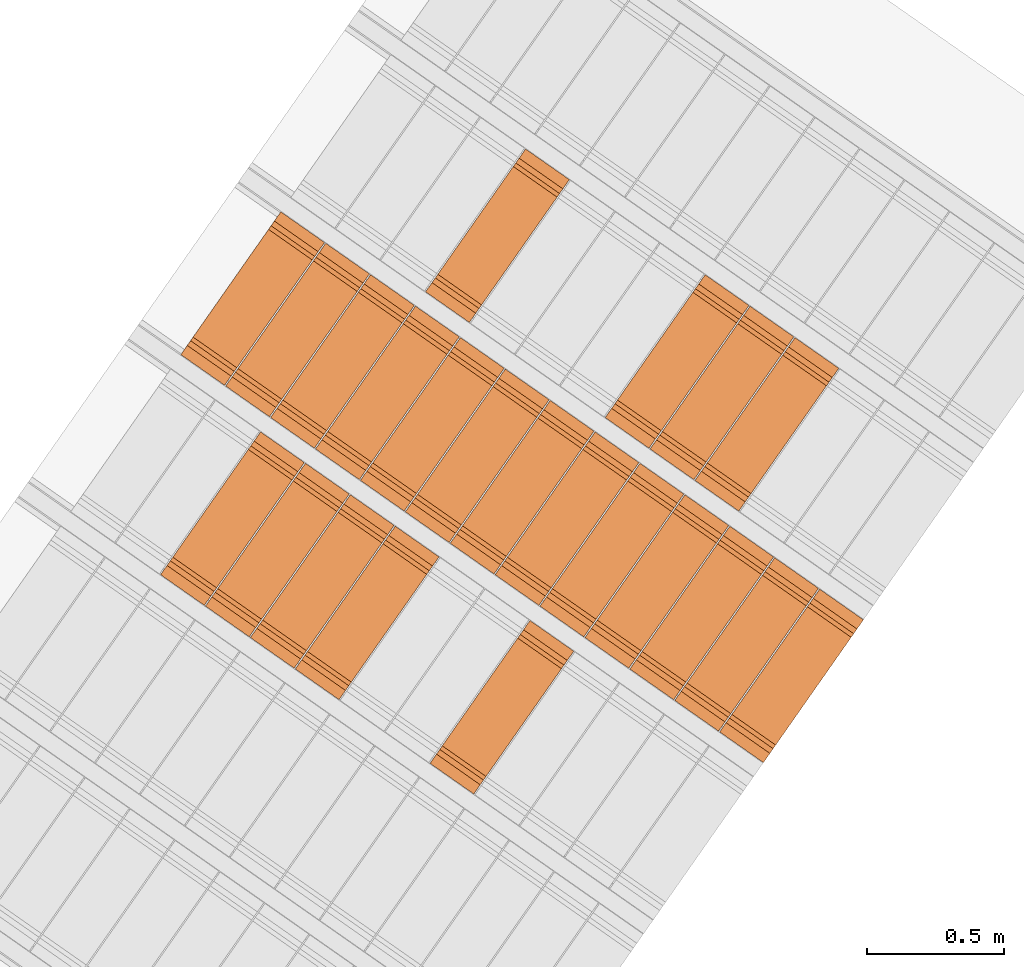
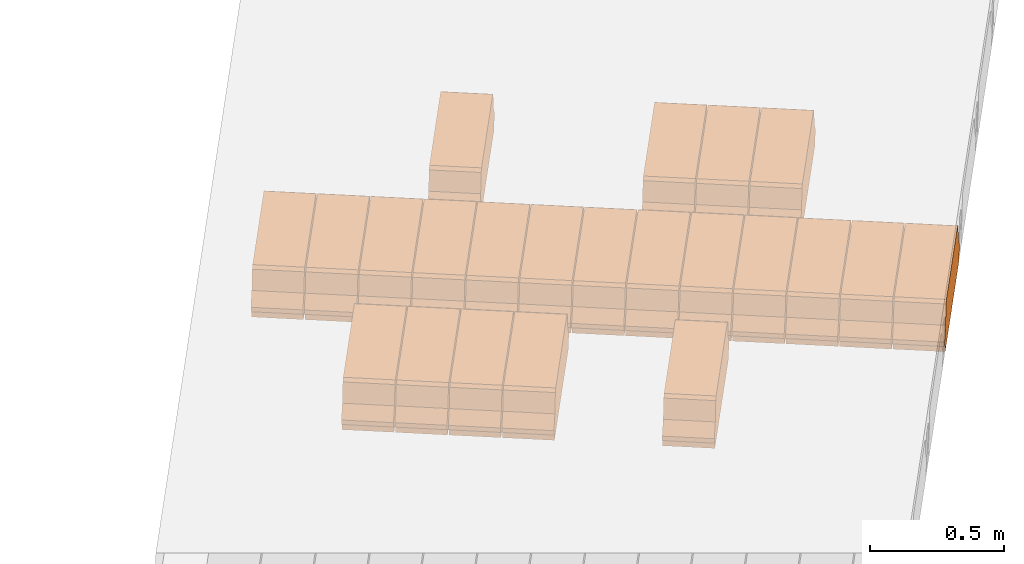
# One storey, part 7 of 8: 22 proxies.
"""IFC2X3 building model written with IfcOpenShell, lengths in metres."""

from ifc_helpers import new_model, entity, si_unit, converted_unit, derived_unit, direction, frame, origin, place, context, subcontext, project, spatial, polyline, outline, extrude, type_object, element, save


model = new_model("IFC2X3")

# Units and contexts
model_context = context("Model", 3, precision=1e-05, world=origin(), true_north=direction((6.123031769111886e-17, 1.0)))
body_context = subcontext(model_context, "Body", "Model", "MODEL_VIEW")
ifc_project = project(units=[si_unit("LENGTHUNIT", "METRE"), si_unit("AREAUNIT", "SQUARE_METRE"), si_unit("VOLUMEUNIT", "CUBIC_METRE"), converted_unit("PLANEANGLEUNIT", "DEGREE", entity("IfcPlaneAngleMeasure", 0.017453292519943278), si_unit("PLANEANGLEUNIT", "RADIAN"), dimensions=[0, 0, 0, 0, 0, 0, 0]), si_unit("MASSUNIT", "GRAM", prefix="KILO"), derived_unit("MASSDENSITYUNIT", [(si_unit("MASSUNIT", "GRAM", prefix="KILO"), 1), (si_unit("LENGTHUNIT", "METRE"), -3)]), derived_unit("IONCONCENTRATIONUNIT", [(si_unit("MASSUNIT", "GRAM", prefix="KILO"), 1), (si_unit("LENGTHUNIT", "METRE"), -3)]), derived_unit("MOMENTOFINERTIAUNIT", [(si_unit("LENGTHUNIT", "METRE"), 4)]), si_unit("TIMEUNIT", "SECOND"), si_unit("FREQUENCYUNIT", "HERTZ"), si_unit("THERMODYNAMICTEMPERATUREUNIT", "DEGREE_CELSIUS"), derived_unit("THERMALTRANSMITTANCEUNIT", [(si_unit("MASSUNIT", "GRAM", prefix="KILO"), 1), (si_unit("THERMODYNAMICTEMPERATUREUNIT", "KELVIN"), -1), (si_unit("TIMEUNIT", "SECOND"), -3)]), derived_unit("THERMALCONDUCTANCEUNIT", [(si_unit("MASSUNIT", "GRAM", prefix="KILO"), 1), (si_unit("THERMODYNAMICTEMPERATUREUNIT", "KELVIN"), -1), (si_unit("TIMEUNIT", "SECOND"), -3), (si_unit("LENGTHUNIT", "METRE"), 1)]), derived_unit("VOLUMETRICFLOWRATEUNIT", [(si_unit("LENGTHUNIT", "METRE", prefix="DECI"), 3), (si_unit("TIMEUNIT", "SECOND"), -1)]), derived_unit("MASSFLOWRATEUNIT", [(si_unit("MASSUNIT", "GRAM", prefix="KILO"), 1), (si_unit("TIMEUNIT", "SECOND"), -1)]), derived_unit("ROTATIONALFREQUENCYUNIT", [(si_unit("TIMEUNIT", "SECOND"), -1)]), si_unit("ELECTRICCURRENTUNIT", "AMPERE"), si_unit("ELECTRICVOLTAGEUNIT", "VOLT"), si_unit("POWERUNIT", "WATT"), si_unit("FORCEUNIT", "NEWTON", prefix="KILO"), si_unit("ILLUMINANCEUNIT", "LUX"), si_unit("LUMINOUSFLUXUNIT", "LUMEN"), si_unit("LUMINOUSINTENSITYUNIT", "CANDELA"), si_unit("ENERGYUNIT", "JOULE"), derived_unit("USERDEFINED", [(si_unit("MASSUNIT", "GRAM", prefix="KILO"), -1), (si_unit("LENGTHUNIT", "METRE"), -2), (si_unit("TIMEUNIT", "SECOND"), 3), (si_unit("LUMINOUSFLUXUNIT", "LUMEN"), 1)]), derived_unit("USERDEFINED", [(si_unit("MASSUNIT", "GRAM", prefix="KILO"), 1), (si_unit("TIMEUNIT", "SECOND"), -3), (si_unit("LENGTHUNIT", "METRE"), 3), (si_unit("ELECTRICCURRENTUNIT", "AMPERE"), -2)]), derived_unit("SOUNDPOWERUNIT", [(si_unit("MASSUNIT", "GRAM", prefix="KILO"), 1), (si_unit("TIMEUNIT", "SECOND"), -3), (si_unit("LENGTHUNIT", "METRE"), 2)]), derived_unit("SOUNDPRESSUREUNIT", [(si_unit("MASSUNIT", "GRAM", prefix="KILO"), 1), (si_unit("LENGTHUNIT", "METRE"), -1), (si_unit("TIMEUNIT", "SECOND"), -2)]), derived_unit("LINEARVELOCITYUNIT", [(si_unit("LENGTHUNIT", "METRE"), 1), (si_unit("TIMEUNIT", "SECOND"), -1)]), si_unit("PRESSUREUNIT", "PASCAL"), derived_unit("USERDEFINED", [(si_unit("MASSUNIT", "GRAM", prefix="KILO"), 1), (si_unit("LENGTHUNIT", "METRE"), -2), (si_unit("TIMEUNIT", "SECOND"), -2)]), derived_unit("LINEARFORCEUNIT", [(si_unit("MASSUNIT", "GRAM", prefix="KILO"), 1), (si_unit("TIMEUNIT", "SECOND"), -2)]), derived_unit("PLANARFORCEUNIT", [(si_unit("MASSUNIT", "GRAM", prefix="KILO"), 1), (si_unit("LENGTHUNIT", "METRE"), -1), (si_unit("TIMEUNIT", "SECOND"), -2)]), derived_unit("SPECIFICHEATCAPACITYUNIT", [(si_unit("THERMODYNAMICTEMPERATUREUNIT", "KELVIN"), -1), (si_unit("LENGTHUNIT", "METRE"), 2), (si_unit("TIMEUNIT", "SECOND"), -2)]), derived_unit("HEATFLUXDENSITYUNIT", [(si_unit("MASSUNIT", "GRAM", prefix="KILO"), 1), (si_unit("TIMEUNIT", "SECOND"), -3)]), derived_unit("HEATINGVALUEUNIT", [(si_unit("LENGTHUNIT", "METRE"), 2), (si_unit("TIMEUNIT", "SECOND"), -2)]), derived_unit("VAPORPERMEABILITYUNIT", [(si_unit("LENGTHUNIT", "METRE"), -1), (si_unit("TIMEUNIT", "SECOND"), 1)]), derived_unit("DYNAMICVISCOSITYUNIT", [(si_unit("MASSUNIT", "GRAM", prefix="KILO"), 1), (si_unit("TIMEUNIT", "SECOND"), -1), (si_unit("LENGTHUNIT", "METRE"), -1)]), derived_unit("THERMALEXPANSIONCOEFFICIENTUNIT", [(si_unit("THERMODYNAMICTEMPERATUREUNIT", "KELVIN"), -1)]), derived_unit("MODULUSOFELASTICITYUNIT", [(si_unit("MASSUNIT", "GRAM", prefix="KILO"), 1), (si_unit("LENGTHUNIT", "METRE"), -1), (si_unit("TIMEUNIT", "SECOND"), -2)]), derived_unit("ISOTHERMALMOISTURECAPACITYUNIT", [(si_unit("MASSUNIT", "GRAM", prefix="KILO"), -1), (si_unit("LENGTHUNIT", "METRE"), 3)]), derived_unit("MOISTUREDIFFUSIVITYUNIT", [(si_unit("TIMEUNIT", "SECOND"), -1), (si_unit("LENGTHUNIT", "METRE"), 2)]), derived_unit("MASSPERLENGTHUNIT", [(si_unit("MASSUNIT", "GRAM", prefix="KILO"), 1), (si_unit("LENGTHUNIT", "METRE"), -1)]), derived_unit("THERMALRESISTANCEUNIT", [(si_unit("MASSUNIT", "GRAM", prefix="KILO"), -1), (si_unit("TIMEUNIT", "SECOND"), 3), (si_unit("THERMODYNAMICTEMPERATUREUNIT", "KELVIN"), 1)]), derived_unit("ACCELERATIONUNIT", [(si_unit("LENGTHUNIT", "METRE"), 1), (si_unit("TIMEUNIT", "SECOND"), -2)]), derived_unit("ANGULARVELOCITYUNIT", [(si_unit("TIMEUNIT", "SECOND"), -1), (si_unit("PLANEANGLEUNIT", "RADIAN"), 1)]), derived_unit("LINEARSTIFFNESSUNIT", [(si_unit("MASSUNIT", "GRAM", prefix="KILO"), 1), (si_unit("TIMEUNIT", "SECOND"), -2)]), derived_unit("WARPINGCONSTANTUNIT", [(si_unit("LENGTHUNIT", "METRE"), 6)]), derived_unit("LINEARMOMENTUNIT", [(si_unit("MASSUNIT", "GRAM", prefix="KILO"), 1), (si_unit("LENGTHUNIT", "METRE"), 1), (si_unit("TIMEUNIT", "SECOND"), -2)]), derived_unit("TORQUEUNIT", [(si_unit("MASSUNIT", "GRAM", prefix="KILO"), 1), (si_unit("LENGTHUNIT", "METRE"), 2), (si_unit("TIMEUNIT", "SECOND"), -2)])], contexts=[model_context])

# Site, building, storey
site_placement = place(None, origin())
site = spatial("IfcSite", under=ifc_project, at=site_placement, Name="Default", CompositionType="ELEMENT")
building_placement = place(site_placement, origin())
building = spatial("IfcBuilding", under=site, at=building_placement, CompositionType="ELEMENT")
storey_placement = place(building_placement, frame((0.0, 0.0, 93.64)))
storey = spatial("IfcBuildingStorey", under=building, at=storey_placement, Name="Depósito_", CompositionType="ELEMENT", Elevation=93.64)

# Proxies
building_element_proxy_type_1 = type_object("IfcBuildingElementProxyType", Name="Bovedilla 3-5 (Paño 2)", PredefinedType="USERDEFINED")
proxy_1_placement = place(storey_placement, origin())
element("IfcBuildingElementProxy", 1, at=proxy_1_placement, inside=storey, type_object=building_element_proxy_type_1, Name="Bovedilla 3-5 (Paño 2)", ObjectType="FORM", context=body_context, shape_type="SweptSolid", body=[
    extrude(outline(polyline([(0.05816607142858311, -0.2950000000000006), (0.08997232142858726, -0.2950000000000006), (0.08997232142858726, 0.2949999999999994), (0.05816607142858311, 0.2949999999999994), (0.049972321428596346, 0.3180000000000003), (0.029972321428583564, 0.3180000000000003), (-0.018027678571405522, 0.27699999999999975), (-0.10002767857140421, 0.2560000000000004), (-0.11002767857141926, 0.2399999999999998), (-0.11002767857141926, -0.2399999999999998), (-0.10002767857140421, -0.2560000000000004), (-0.018027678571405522, -0.27699999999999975), (0.029972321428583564, -0.3180000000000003), (0.049972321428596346, -0.3180000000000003), (0.05816607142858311, -0.2950000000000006)])), frame((4.300533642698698, 7.338805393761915, 2.1381660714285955), z_axis=(0.8191520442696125, -0.5735764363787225, 0.0), x_axis=(0.0, 0.0, -1.0)), (0.0, 0.0, 1.0), 0.19500000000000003),
])
building_element_proxy_type_2 = type_object("IfcBuildingElementProxyType", Name="Bovedilla 3-8 (Paño 2)", PredefinedType="USERDEFINED")
proxy_2_placement = place(storey_placement, origin())
element("IfcBuildingElementProxy", 2, at=proxy_2_placement, inside=storey, type_object=building_element_proxy_type_2, Name="Bovedilla 3-8 (Paño 2)", ObjectType="FORM", context=body_context, shape_type="SweptSolid", body=[
    extrude(outline(polyline([(0.05816607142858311, -0.2949999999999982), (0.08997232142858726, -0.2949999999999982), (0.08997232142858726, 0.2950000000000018), (0.05816607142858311, 0.2950000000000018), (0.049972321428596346, 0.3180000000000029), (0.029972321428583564, 0.3180000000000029), (-0.018027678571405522, 0.2770000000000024), (-0.10002767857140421, 0.2560000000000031), (-0.11002767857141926, 0.24000000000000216), (-0.11002767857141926, -0.23999999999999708), (-0.10002767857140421, -0.255999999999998), (-0.018027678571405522, -0.27699999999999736), (0.029972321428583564, -0.31799999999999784), (0.049972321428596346, -0.31799999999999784), (0.05816607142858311, -0.2949999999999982)])), frame((3.809042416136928, 7.682951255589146, 2.1381660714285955), z_axis=(0.8191520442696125, -0.5735764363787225, 0.0), x_axis=(0.0, 0.0, -1.0)), (0.0, 0.0, 1.0), 0.19500000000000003),
])
building_element_proxy_type_3 = type_object("IfcBuildingElementProxyType", Name="Bovedilla 3-9 (Paño 2)", PredefinedType="USERDEFINED")
proxy_3_placement = place(storey_placement, origin())
element("IfcBuildingElementProxy", 3, at=proxy_3_placement, inside=storey, type_object=building_element_proxy_type_3, Name="Bovedilla 3-9 (Paño 2)", ObjectType="FORM", context=body_context, shape_type="SweptSolid", body=[
    extrude(outline(polyline([(0.05816607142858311, -0.2950000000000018), (0.08997232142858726, -0.2950000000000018), (0.08997232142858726, 0.2949999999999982), (0.05816607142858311, 0.2949999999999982), (0.049972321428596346, 0.31799999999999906), (0.029972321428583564, 0.31799999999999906), (-0.018027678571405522, 0.2769999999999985), (-0.10002767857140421, 0.2559999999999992), (-0.11002767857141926, 0.23999999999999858), (-0.11002767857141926, -0.24000000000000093), (-0.10002767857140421, -0.25600000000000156), (-0.018027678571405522, -0.2770000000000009), (0.029972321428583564, -0.3180000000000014), (0.049972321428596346, -0.3180000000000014), (0.05816607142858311, -0.2950000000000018)])), frame((3.645212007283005, 7.797666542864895, 2.1381660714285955), z_axis=(0.8191520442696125, -0.5735764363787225, 0.0), x_axis=(0.0, 0.0, -1.0)), (0.0, 0.0, 1.0), 0.19500000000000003),
])
building_element_proxy_type_4 = type_object("IfcBuildingElementProxyType", Name="Bovedilla 3-10 (Paño 2)", PredefinedType="USERDEFINED")
proxy_4_placement = place(storey_placement, origin())
element("IfcBuildingElementProxy", 4, at=proxy_4_placement, inside=storey, type_object=building_element_proxy_type_4, Name="Bovedilla 3-10 (Paño 2)", ObjectType="FORM", context=body_context, shape_type="SweptSolid", body=[
    extrude(outline(polyline([(0.05816607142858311, -0.2950000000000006), (0.08997232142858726, -0.2950000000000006), (0.08997232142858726, 0.2949999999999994), (0.05816607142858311, 0.2949999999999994), (0.049972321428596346, 0.3180000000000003), (0.029972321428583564, 0.3180000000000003), (-0.018027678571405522, 0.27699999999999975), (-0.10002767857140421, 0.2560000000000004), (-0.11002767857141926, 0.2399999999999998), (-0.11002767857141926, -0.2399999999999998), (-0.10002767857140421, -0.2560000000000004), (-0.018027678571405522, -0.27699999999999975), (0.029972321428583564, -0.3180000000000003), (0.049972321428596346, -0.3180000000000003), (0.05816607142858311, -0.2950000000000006)])), frame((3.4813815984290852, 7.912381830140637, 2.1381660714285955), z_axis=(0.8191520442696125, -0.5735764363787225, 0.0), x_axis=(0.0, 0.0, -1.0)), (0.0, 0.0, 1.0), 0.19500000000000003),
])
building_element_proxy_type_5 = type_object("IfcBuildingElementProxyType", Name="Bovedilla 3-11 (Paño 2)", PredefinedType="USERDEFINED")
proxy_5_placement = place(storey_placement, origin())
element("IfcBuildingElementProxy", 5, at=proxy_5_placement, inside=storey, type_object=building_element_proxy_type_5, Name="Bovedilla 3-11 (Paño 2)", ObjectType="FORM", context=body_context, shape_type="SweptSolid", body=[
    extrude(outline(polyline([(0.05816607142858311, -0.2950000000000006), (0.08997232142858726, -0.2950000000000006), (0.08997232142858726, 0.2949999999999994), (0.05816607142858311, 0.2949999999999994), (0.049972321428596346, 0.3180000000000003), (0.029972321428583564, 0.3180000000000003), (-0.018027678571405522, 0.27699999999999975), (-0.10002767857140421, 0.2560000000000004), (-0.11002767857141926, 0.2399999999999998), (-0.11002767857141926, -0.2399999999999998), (-0.10002767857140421, -0.2560000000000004), (-0.018027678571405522, -0.27699999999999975), (0.029972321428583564, -0.3180000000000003), (0.049972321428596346, -0.3180000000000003), (0.05816607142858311, -0.2950000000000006)])), frame((3.3175511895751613, 8.02709711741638, 2.1381660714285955), z_axis=(0.8191520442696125, -0.5735764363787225, 0.0), x_axis=(0.0, 0.0, -1.0)), (0.0, 0.0, 1.0), 0.19500000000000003),
])
building_element_proxy_type_6 = type_object("IfcBuildingElementProxyType", Name="Bovedilla 4-1 (Paño 2)", PredefinedType="USERDEFINED")
proxy_6_placement = place(storey_placement, origin())
element("IfcBuildingElementProxy", 6, at=proxy_6_placement, inside=storey, type_object=building_element_proxy_type_6, Name="Bovedilla 4-1 (Paño 2)", ObjectType="FORM", context=body_context, shape_type="SweptSolid", body=[
    extrude(outline(polyline([(0.05816607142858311, -0.29499999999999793), (0.08997232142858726, -0.29499999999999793), (0.08997232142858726, 0.2950000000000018), (0.05816607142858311, 0.2950000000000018), (0.049972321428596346, 0.3180000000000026), (0.029972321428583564, 0.3180000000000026), (-0.018027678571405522, 0.27700000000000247), (-0.10002767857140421, 0.2560000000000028), (-0.11002767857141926, 0.24000000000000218), (-0.11002767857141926, -0.2399999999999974), (-0.10002767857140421, -0.255999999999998), (-0.018027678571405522, -0.2769999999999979), (0.029972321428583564, -0.31799999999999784), (0.049972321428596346, -0.31799999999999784), (0.05816607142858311, -0.29499999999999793)])), frame((5.357358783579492, 7.4533506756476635, 2.1381660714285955), z_axis=(0.8191520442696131, -0.5735764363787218, 0.0), x_axis=(0.0, 0.0, -1.0)), (0.0, 0.0, 1.0), 0.19500000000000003),
])
building_element_proxy_type_7 = type_object("IfcBuildingElementProxyType", Name="Bovedilla 4-2 (Paño 2)", PredefinedType="USERDEFINED")
proxy_7_placement = place(storey_placement, origin())
element("IfcBuildingElementProxy", 7, at=proxy_7_placement, inside=storey, type_object=building_element_proxy_type_7, Name="Bovedilla 4-2 (Paño 2)", ObjectType="FORM", context=body_context, shape_type="SweptSolid", body=[
    extrude(outline(polyline([(0.05816607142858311, -0.2949999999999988), (0.08997232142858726, -0.2949999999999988), (0.08997232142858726, 0.2950000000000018), (0.05816607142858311, 0.2950000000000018), (0.049972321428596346, 0.3180000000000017), (0.029972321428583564, 0.3180000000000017), (-0.018027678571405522, 0.27700000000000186), (-0.10002767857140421, 0.2560000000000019), (-0.11002767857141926, 0.24000000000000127), (-0.11002767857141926, -0.2399999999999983), (-0.10002767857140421, -0.2559999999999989), (-0.018027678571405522, -0.2769999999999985), (0.029972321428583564, -0.3179999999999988), (0.049972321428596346, -0.3179999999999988), (0.05816607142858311, -0.2949999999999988)])), frame((5.193528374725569, 7.568065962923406, 2.1381660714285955), z_axis=(0.8191520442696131, -0.5735764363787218, 0.0), x_axis=(0.0, 0.0, -1.0)), (0.0, 0.0, 1.0), 0.19500000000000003),
])
building_element_proxy_type_8 = type_object("IfcBuildingElementProxyType", Name="Bovedilla 4-3 (Paño 2)", PredefinedType="USERDEFINED")
proxy_8_placement = place(storey_placement, origin())
element("IfcBuildingElementProxy", 8, at=proxy_8_placement, inside=storey, type_object=building_element_proxy_type_8, Name="Bovedilla 4-3 (Paño 2)", ObjectType="FORM", context=body_context, shape_type="SweptSolid", body=[
    extrude(outline(polyline([(0.05816607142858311, -0.2950000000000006), (0.08997232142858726, -0.2950000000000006), (0.08997232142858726, 0.2949999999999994), (0.05816607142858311, 0.2949999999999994), (0.049972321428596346, 0.3180000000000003), (0.029972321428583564, 0.3180000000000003), (-0.018027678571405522, 0.277), (-0.10002767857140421, 0.2560000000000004), (-0.11002767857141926, 0.2399999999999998), (-0.11002767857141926, -0.2399999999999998), (-0.10002767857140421, -0.2560000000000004), (-0.018027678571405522, -0.27699999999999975), (0.029972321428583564, -0.3180000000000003), (0.049972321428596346, -0.3180000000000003), (0.05816607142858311, -0.2950000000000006)])), frame((5.029697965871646, 7.682781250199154, 2.1381660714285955), z_axis=(0.8191520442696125, -0.5735764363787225, 0.0), x_axis=(0.0, 0.0, -1.0)), (0.0, 0.0, 1.0), 0.19500000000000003),
])
building_element_proxy_type_9 = type_object("IfcBuildingElementProxyType", Name="Bovedilla 4-4 (Paño 2)", PredefinedType="USERDEFINED")
proxy_9_placement = place(storey_placement, origin())
element("IfcBuildingElementProxy", 9, at=proxy_9_placement, inside=storey, type_object=building_element_proxy_type_9, Name="Bovedilla 4-4 (Paño 2)", ObjectType="FORM", context=body_context, shape_type="SweptSolid", body=[
    extrude(outline(polyline([(0.05816607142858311, -0.2949999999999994), (0.08997232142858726, -0.2949999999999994), (0.08997232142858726, 0.2950000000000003), (0.05816607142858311, 0.2950000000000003), (0.049972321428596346, 0.3180000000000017), (0.029972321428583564, 0.3180000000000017), (-0.018027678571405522, 0.2770000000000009), (-0.10002767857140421, 0.2560000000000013), (-0.11002767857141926, 0.24000000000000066), (-0.11002767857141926, -0.23999999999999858), (-0.10002767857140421, -0.2559999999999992), (-0.018027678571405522, -0.2769999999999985), (0.029972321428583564, -0.31799999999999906), (0.049972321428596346, -0.31799999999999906), (0.05816607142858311, -0.2949999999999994)])), frame((4.865867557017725, 7.797496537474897, 2.1381660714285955), z_axis=(0.8191520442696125, -0.5735764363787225, 0.0), x_axis=(0.0, 0.0, -1.0)), (0.0, 0.0, 1.0), 0.19500000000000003),
])
building_element_proxy_type_10 = type_object("IfcBuildingElementProxyType", Name="Bovedilla 4-5 (Paño 2)", PredefinedType="USERDEFINED")
proxy_10_placement = place(storey_placement, origin())
element("IfcBuildingElementProxy", 10, at=proxy_10_placement, inside=storey, type_object=building_element_proxy_type_10, Name="Bovedilla 4-5 (Paño 2)", ObjectType="FORM", context=body_context, shape_type="SweptSolid", body=[
    extrude(outline(polyline([(0.05816607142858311, -0.2949999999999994), (0.08997232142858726, -0.2949999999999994), (0.08997232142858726, 0.2950000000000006), (0.05816607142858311, 0.2950000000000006), (0.049972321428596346, 0.3180000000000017), (0.029972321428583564, 0.3180000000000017), (-0.018027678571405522, 0.2770000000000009), (-0.10002767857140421, 0.25600000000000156), (-0.11002767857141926, 0.24000000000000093), (-0.11002767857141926, -0.23999999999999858), (-0.10002767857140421, -0.2559999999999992), (-0.018027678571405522, -0.2769999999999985), (0.029972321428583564, -0.31799999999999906), (0.049972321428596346, -0.31799999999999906), (0.05816607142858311, -0.2949999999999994)])), frame((4.702037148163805, 7.91221182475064, 2.1381660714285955), z_axis=(0.8191520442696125, -0.5735764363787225, 0.0), x_axis=(0.0, 0.0, -1.0)), (0.0, 0.0, 1.0), 0.19500000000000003),
])
building_element_proxy_type_11 = type_object("IfcBuildingElementProxyType", Name="Bovedilla 4-6 (Paño 2)", PredefinedType="USERDEFINED")
proxy_11_placement = place(storey_placement, origin())
element("IfcBuildingElementProxy", 11, at=proxy_11_placement, inside=storey, type_object=building_element_proxy_type_11, Name="Bovedilla 4-6 (Paño 2)", ObjectType="FORM", context=body_context, shape_type="SweptSolid", body=[
    extrude(outline(polyline([(0.05816607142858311, -0.2949999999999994), (0.08997232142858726, -0.2949999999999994), (0.08997232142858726, 0.2950000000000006), (0.05816607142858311, 0.2950000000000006), (0.049972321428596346, 0.31800000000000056), (0.029972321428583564, 0.31800000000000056), (-0.018027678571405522, 0.277), (-0.10002767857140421, 0.25600000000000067), (-0.11002767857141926, 0.24000000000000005), (-0.11002767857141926, -0.23999999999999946), (-0.10002767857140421, -0.25600000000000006), (-0.018027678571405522, -0.2769999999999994), (0.029972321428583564, -0.31799999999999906), (0.049972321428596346, -0.31799999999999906), (0.05816607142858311, -0.2949999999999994)])), frame((4.538206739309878, 8.026927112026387, 2.1381660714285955), z_axis=(0.8191520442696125, -0.5735764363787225, 0.0), x_axis=(0.0, 0.0, -1.0)), (0.0, 0.0, 1.0), 0.19500000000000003),
])
building_element_proxy_type_12 = type_object("IfcBuildingElementProxyType", Name="Bovedilla 4-7 (Paño 2)", PredefinedType="USERDEFINED")
proxy_12_placement = place(storey_placement, origin())
element("IfcBuildingElementProxy", 12, at=proxy_12_placement, inside=storey, type_object=building_element_proxy_type_12, Name="Bovedilla 4-7 (Paño 2)", ObjectType="FORM", context=body_context, shape_type="SweptSolid", body=[
    extrude(outline(polyline([(0.05816607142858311, -0.2950000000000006), (0.08997232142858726, -0.2950000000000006), (0.08997232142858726, 0.2949999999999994), (0.05816607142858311, 0.2949999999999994), (0.049972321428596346, 0.3180000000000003), (0.029972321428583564, 0.3180000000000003), (-0.018027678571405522, 0.27699999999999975), (-0.10002767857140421, 0.2560000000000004), (-0.11002767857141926, 0.2399999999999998), (-0.11002767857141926, -0.2399999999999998), (-0.10002767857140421, -0.2560000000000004), (-0.018027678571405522, -0.27699999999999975), (0.029972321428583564, -0.3180000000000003), (0.049972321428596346, -0.3180000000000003), (0.05816607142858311, -0.2950000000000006)])), frame((4.374376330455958, 8.141642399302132, 2.1381660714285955), z_axis=(0.8191520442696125, -0.5735764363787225, 0.0), x_axis=(0.0, 0.0, -1.0)), (0.0, 0.0, 1.0), 0.19500000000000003),
])
building_element_proxy_type_13 = type_object("IfcBuildingElementProxyType", Name="Bovedilla 4-8 (Paño 2)", PredefinedType="USERDEFINED")
proxy_13_placement = place(storey_placement, origin())
element("IfcBuildingElementProxy", 13, at=proxy_13_placement, inside=storey, type_object=building_element_proxy_type_13, Name="Bovedilla 4-8 (Paño 2)", ObjectType="FORM", context=body_context, shape_type="SweptSolid", body=[
    extrude(outline(polyline([(0.05816607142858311, -0.2949999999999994), (0.08997232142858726, -0.2949999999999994), (0.08997232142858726, 0.2950000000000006), (0.05816607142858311, 0.2950000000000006), (0.049972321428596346, 0.3180000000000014), (0.029972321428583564, 0.3180000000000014), (-0.018027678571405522, 0.2770000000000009), (-0.10002767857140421, 0.25600000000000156), (-0.11002767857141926, 0.24000000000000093), (-0.11002767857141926, -0.23999999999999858), (-0.10002767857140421, -0.2559999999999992), (-0.018027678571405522, -0.2769999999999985), (0.029972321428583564, -0.31799999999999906), (0.049972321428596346, -0.31799999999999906), (0.05816607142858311, -0.2949999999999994)])), frame((4.210545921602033, 8.256357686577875, 2.1381660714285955), z_axis=(0.8191520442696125, -0.5735764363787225, 0.0), x_axis=(0.0, 0.0, -1.0)), (0.0, 0.0, 1.0), 0.19500000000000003),
])
building_element_proxy_type_14 = type_object("IfcBuildingElementProxyType", Name="Bovedilla 4-9 (Paño 2)", PredefinedType="USERDEFINED")
proxy_14_placement = place(storey_placement, origin())
element("IfcBuildingElementProxy", 14, at=proxy_14_placement, inside=storey, type_object=building_element_proxy_type_14, Name="Bovedilla 4-9 (Paño 2)", ObjectType="FORM", context=body_context, shape_type="SweptSolid", body=[
    extrude(outline(polyline([(0.05816607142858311, -0.2949999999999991), (0.08997232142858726, -0.2949999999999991), (0.08997232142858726, 0.295000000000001), (0.05816607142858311, 0.295000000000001), (0.049972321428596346, 0.3180000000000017), (0.029972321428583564, 0.3180000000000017), (-0.018027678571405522, 0.27700000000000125), (-0.10002767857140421, 0.2560000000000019), (-0.11002767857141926, 0.24000000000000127), (-0.11002767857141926, -0.23999999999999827), (-0.10002767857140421, -0.2559999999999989), (-0.018027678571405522, -0.2769999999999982), (0.029972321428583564, -0.31799999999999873), (0.049972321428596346, -0.31799999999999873), (0.05816607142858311, -0.2949999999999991)])), frame((4.046715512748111, 8.371072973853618, 2.1381660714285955), z_axis=(0.8191520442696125, -0.5735764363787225, 0.0), x_axis=(0.0, 0.0, -1.0)), (0.0, 0.0, 1.0), 0.19500000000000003),
])
building_element_proxy_type_15 = type_object("IfcBuildingElementProxyType", Name="Bovedilla 4-10 (Paño 2)", PredefinedType="USERDEFINED")
proxy_15_placement = place(storey_placement, origin())
element("IfcBuildingElementProxy", 15, at=proxy_15_placement, inside=storey, type_object=building_element_proxy_type_15, Name="Bovedilla 4-10 (Paño 2)", ObjectType="FORM", context=body_context, shape_type="SweptSolid", body=[
    extrude(outline(polyline([(0.05816607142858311, -0.2950000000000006), (0.08997232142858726, -0.2950000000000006), (0.08997232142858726, 0.2949999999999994), (0.05816607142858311, 0.2949999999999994), (0.049972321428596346, 0.3180000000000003), (0.029972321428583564, 0.3180000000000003), (-0.018027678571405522, 0.27699999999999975), (-0.10002767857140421, 0.2560000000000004), (-0.11002767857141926, 0.2399999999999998), (-0.11002767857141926, -0.2399999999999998), (-0.10002767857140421, -0.2560000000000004), (-0.018027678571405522, -0.27699999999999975), (0.029972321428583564, -0.3180000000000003), (0.049972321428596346, -0.3180000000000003), (0.05816607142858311, -0.2950000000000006)])), frame((3.88288510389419, 8.485788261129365, 2.1381660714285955), z_axis=(0.8191520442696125, -0.5735764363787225, 0.0), x_axis=(0.0, 0.0, -1.0)), (0.0, 0.0, 1.0), 0.19500000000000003),
])
building_element_proxy_type_16 = type_object("IfcBuildingElementProxyType", Name="Bovedilla 4-11 (Paño 2)", PredefinedType="USERDEFINED")
proxy_16_placement = place(storey_placement, origin())
element("IfcBuildingElementProxy", 16, at=proxy_16_placement, inside=storey, type_object=building_element_proxy_type_16, Name="Bovedilla 4-11 (Paño 2)", ObjectType="FORM", context=body_context, shape_type="SweptSolid", body=[
    extrude(outline(polyline([(0.05816607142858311, -0.2949999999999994), (0.08997232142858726, -0.2949999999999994), (0.08997232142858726, 0.2950000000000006), (0.05816607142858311, 0.2950000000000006), (0.049972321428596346, 0.3180000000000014), (0.029972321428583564, 0.3180000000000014), (-0.018027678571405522, 0.2770000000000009), (-0.10002767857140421, 0.25600000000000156), (-0.11002767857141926, 0.24000000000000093), (-0.11002767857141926, -0.23999999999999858), (-0.10002767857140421, -0.2559999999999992), (-0.018027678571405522, -0.2769999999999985), (0.029972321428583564, -0.31799999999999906), (0.049972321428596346, -0.31799999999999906), (0.05816607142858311, -0.2949999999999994)])), frame((3.719054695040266, 8.600503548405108, 2.1381660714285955), z_axis=(0.8191520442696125, -0.5735764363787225, 0.0), x_axis=(0.0, 0.0, -1.0)), (0.0, 0.0, 1.0), 0.19500000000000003),
])
building_element_proxy_type_17 = type_object("IfcBuildingElementProxyType", Name="Bovedilla 4-12 (Paño 2)", PredefinedType="USERDEFINED")
proxy_17_placement = place(storey_placement, origin())
element("IfcBuildingElementProxy", 17, at=proxy_17_placement, inside=storey, type_object=building_element_proxy_type_17, Name="Bovedilla 4-12 (Paño 2)", ObjectType="FORM", context=body_context, shape_type="SweptSolid", body=[
    extrude(outline(polyline([(0.05816607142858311, -0.2950000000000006), (0.08997232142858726, -0.2950000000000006), (0.08997232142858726, 0.2949999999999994), (0.05816607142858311, 0.2949999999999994), (0.049972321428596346, 0.3180000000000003), (0.029972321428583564, 0.3180000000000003), (-0.018027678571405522, 0.27699999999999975), (-0.10002767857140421, 0.2560000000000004), (-0.11002767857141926, 0.2399999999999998), (-0.11002767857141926, -0.2399999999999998), (-0.10002767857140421, -0.2560000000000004), (-0.018027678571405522, -0.27699999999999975), (0.029972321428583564, -0.3180000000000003), (0.049972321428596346, -0.3180000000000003), (0.05816607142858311, -0.2950000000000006)])), frame((3.5552242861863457, 8.715218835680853, 2.1381660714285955), z_axis=(0.8191520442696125, -0.5735764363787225, 0.0), x_axis=(0.0, 0.0, -1.0)), (0.0, 0.0, 1.0), 0.19500000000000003),
])
building_element_proxy_type_18 = type_object("IfcBuildingElementProxyType", Name="Bovedilla 4-13 (Paño 2)", PredefinedType="USERDEFINED")
proxy_18_placement = place(storey_placement, origin())
element("IfcBuildingElementProxy", 18, at=proxy_18_placement, inside=storey, type_object=building_element_proxy_type_18, Name="Bovedilla 4-13 (Paño 2)", ObjectType="FORM", context=body_context, shape_type="SweptSolid", body=[
    extrude(outline(polyline([(0.05816607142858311, -0.2950000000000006), (0.08997232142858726, -0.2950000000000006), (0.08997232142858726, 0.2949999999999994), (0.05816607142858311, 0.2949999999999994), (0.049972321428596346, 0.3180000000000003), (0.029972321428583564, 0.3180000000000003), (-0.018027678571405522, 0.27699999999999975), (-0.10002767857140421, 0.2560000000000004), (-0.11002767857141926, 0.2399999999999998), (-0.11002767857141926, -0.2399999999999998), (-0.10002767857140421, -0.2560000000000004), (-0.018027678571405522, -0.27699999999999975), (0.029972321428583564, -0.3180000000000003), (0.049972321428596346, -0.3180000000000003), (0.05816607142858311, -0.2950000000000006)])), frame((3.3913938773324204, 8.8299341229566, 2.1381660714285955), z_axis=(0.8191520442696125, -0.5735764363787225, 0.0), x_axis=(0.0, 0.0, -1.0)), (0.0, 0.0, 1.0), 0.19500000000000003),
])
building_element_proxy_type_19 = type_object("IfcBuildingElementProxyType", Name="Bovedilla 5-4 (Paño 2)", PredefinedType="USERDEFINED")
proxy_19_placement = place(storey_placement, origin())
element("IfcBuildingElementProxy", 19, at=proxy_19_placement, inside=storey, type_object=building_element_proxy_type_19, Name="Bovedilla 5-4 (Paño 2)", ObjectType="FORM", context=body_context, shape_type="SweptSolid", body=[
    extrude(outline(polyline([(0.05816607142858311, -0.2950000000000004), (0.08997232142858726, -0.2950000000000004), (0.08997232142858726, 0.2949999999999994), (0.05816607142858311, 0.2949999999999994), (0.049972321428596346, 0.3180000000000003), (0.029972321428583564, 0.3180000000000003), (-0.018027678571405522, 0.2770000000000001), (-0.10002767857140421, 0.2560000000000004), (-0.11002767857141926, 0.2399999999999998), (-0.11002767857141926, -0.2399999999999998), (-0.10002767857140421, -0.2560000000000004), (-0.018027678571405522, -0.2770000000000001), (0.029972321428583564, -0.3180000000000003), (0.049972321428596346, -0.3180000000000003), (0.05816607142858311, -0.2950000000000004)])), frame((5.267371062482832, 8.370902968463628, 2.1381660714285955), z_axis=(0.8191520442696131, -0.5735764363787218, 0.0), x_axis=(0.0, 0.0, -1.0)), (0.0, 0.0, 1.0), 0.19500000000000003),
])
building_element_proxy_type_20 = type_object("IfcBuildingElementProxyType", Name="Bovedilla 5-5 (Paño 2)", PredefinedType="USERDEFINED")
proxy_20_placement = place(storey_placement, origin())
element("IfcBuildingElementProxy", 20, at=proxy_20_placement, inside=storey, type_object=building_element_proxy_type_20, Name="Bovedilla 5-5 (Paño 2)", ObjectType="FORM", context=body_context, shape_type="SweptSolid", body=[
    extrude(outline(polyline([(0.05816607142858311, -0.2949999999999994), (0.08997232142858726, -0.2949999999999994), (0.08997232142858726, 0.2950000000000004), (0.05816607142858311, 0.2950000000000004), (0.049972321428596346, 0.31800000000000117), (0.029972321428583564, 0.31800000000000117), (-0.018027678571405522, 0.27700000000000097), (-0.10002767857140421, 0.2560000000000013), (-0.11002767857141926, 0.24000000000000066), (-0.11002767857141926, -0.2399999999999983), (-0.10002767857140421, -0.2559999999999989), (-0.018027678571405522, -0.2769999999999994), (0.029972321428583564, -0.3179999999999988), (0.049972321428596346, -0.3179999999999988), (0.05816607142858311, -0.2949999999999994)])), frame((5.103540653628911, 8.485618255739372, 2.1381660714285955), z_axis=(0.8191520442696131, -0.5735764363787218, 0.0), x_axis=(0.0, 0.0, -1.0)), (0.0, 0.0, 1.0), 0.19500000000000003),
])
building_element_proxy_type_21 = type_object("IfcBuildingElementProxyType", Name="Bovedilla 5-6 (Paño 2)", PredefinedType="USERDEFINED")
proxy_21_placement = place(storey_placement, origin())
element("IfcBuildingElementProxy", 21, at=proxy_21_placement, inside=storey, type_object=building_element_proxy_type_21, Name="Bovedilla 5-6 (Paño 2)", ObjectType="FORM", context=body_context, shape_type="SweptSolid", body=[
    extrude(outline(polyline([(0.05816607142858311, -0.2949999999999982), (0.08997232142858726, -0.2949999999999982), (0.08997232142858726, 0.2950000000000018), (0.05816607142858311, 0.2950000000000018), (0.049972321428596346, 0.3180000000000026), (0.029972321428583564, 0.3180000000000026), (-0.018027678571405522, 0.2770000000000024), (-0.10002767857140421, 0.2560000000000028), (-0.11002767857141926, 0.24000000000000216), (-0.11002767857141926, -0.23999999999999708), (-0.10002767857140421, -0.255999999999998), (-0.018027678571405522, -0.27699999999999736), (0.029972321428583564, -0.31799999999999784), (0.049972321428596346, -0.31799999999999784), (0.05816607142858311, -0.2949999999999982)])), frame((4.939710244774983, 8.600333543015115, 2.1381660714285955), z_axis=(0.8191520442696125, -0.5735764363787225, 0.0), x_axis=(0.0, 0.0, -1.0)), (0.0, 0.0, 1.0), 0.19500000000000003),
])
building_element_proxy_type_22 = type_object("IfcBuildingElementProxyType", Name="Bovedilla 5-10 (Paño 2)", PredefinedType="USERDEFINED")
proxy_22_placement = place(storey_placement, origin())
element("IfcBuildingElementProxy", 22, at=proxy_22_placement, inside=storey, type_object=building_element_proxy_type_22, Name="Bovedilla 5-10 (Paño 2)", ObjectType="FORM", context=body_context, shape_type="SweptSolid", body=[
    extrude(outline(polyline([(0.05816607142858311, -0.2949999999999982), (0.08997232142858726, -0.2949999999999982), (0.08997232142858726, 0.2950000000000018), (0.05816607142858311, 0.2950000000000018), (0.049972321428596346, 0.3180000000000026), (0.029972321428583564, 0.3180000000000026), (-0.018027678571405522, 0.2770000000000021), (-0.10002767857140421, 0.2560000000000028), (-0.11002767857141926, 0.24000000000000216), (-0.11002767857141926, -0.23999999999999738), (-0.10002767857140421, -0.255999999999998), (-0.018027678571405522, -0.27699999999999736), (0.029972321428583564, -0.31799999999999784), (0.049972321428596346, -0.31799999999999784), (0.05816607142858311, -0.2949999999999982)])), frame((4.284388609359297, 9.05919469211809, 2.1381660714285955), z_axis=(0.8191520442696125, -0.5735764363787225, 0.0), x_axis=(0.0, 0.0, -1.0)), (0.0, 0.0, 1.0), 0.19500000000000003),
])

save(model, "model.ifc")
